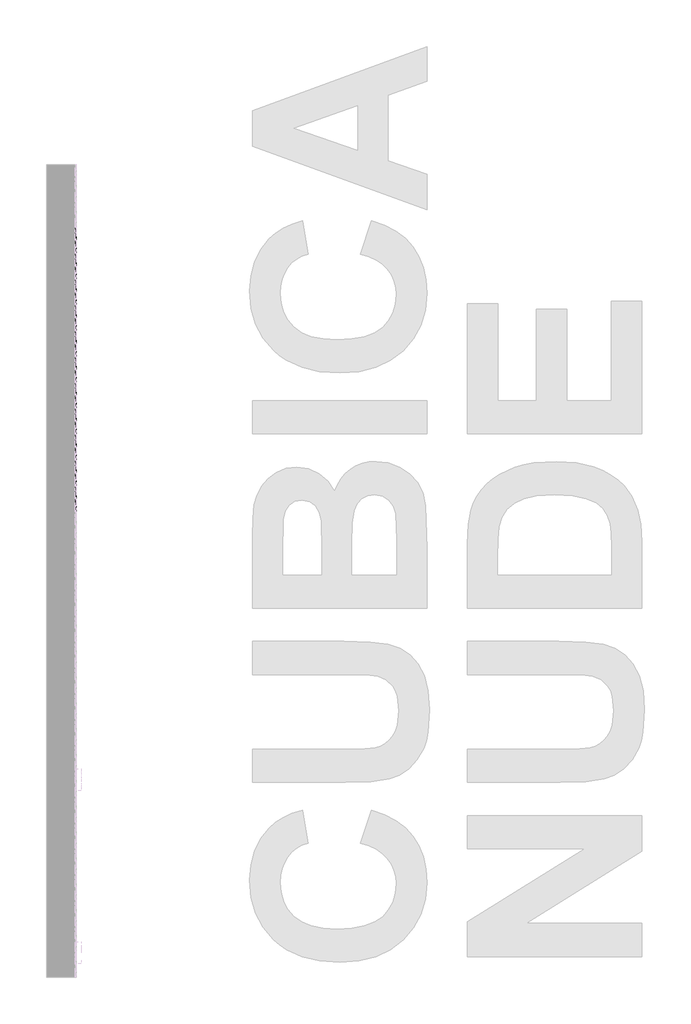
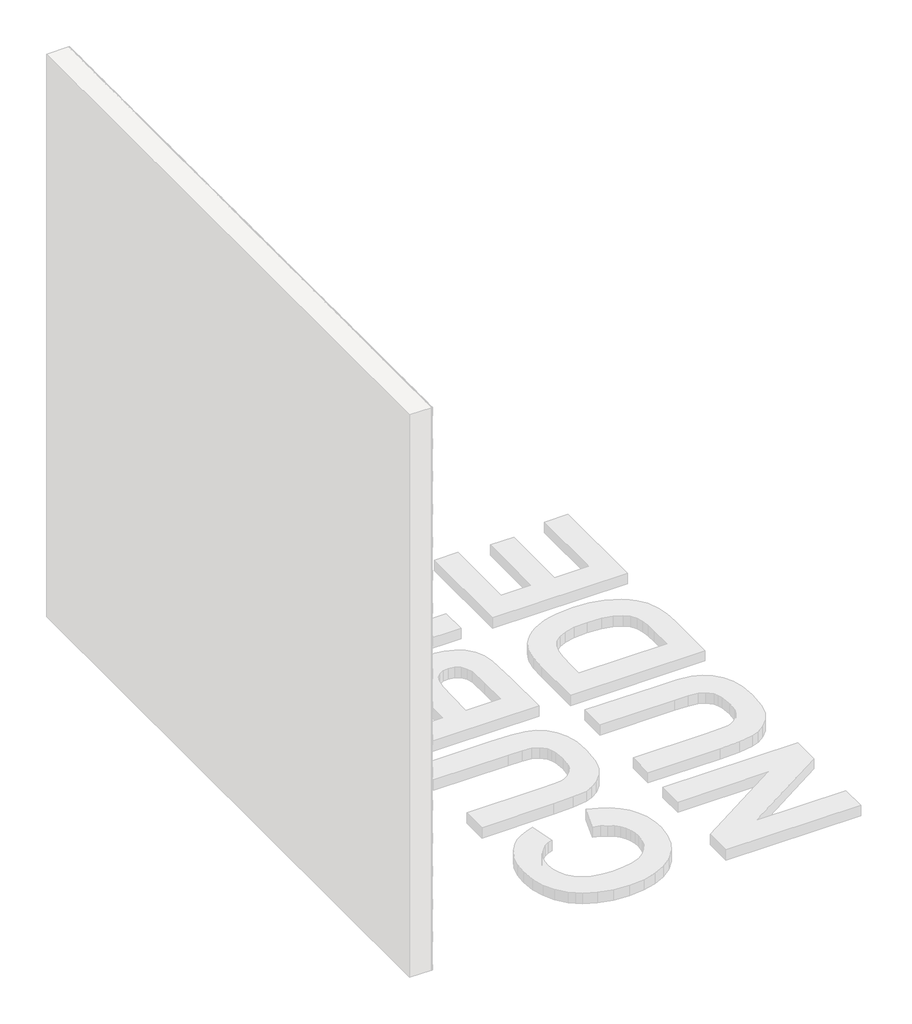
# One storey, part 67 of 121: 145 proxies.
"""IFC4 building model written with IfcOpenShell, lengths in millimetres."""

from ifc_helpers import new_model, si_unit, origin, place, context, project, spatial, transform, mapped, element, save
from components import generic_models_b2b2c5c1, generic_models_9bf73f6f, generic_models_5d175859

model = new_model("IFC4")

# Units and contexts
model_context = context("Model", 3, world=origin())
ifc_project = project(units=[si_unit("LENGTHUNIT", "METRE", prefix="MILLI")], contexts=[model_context])

# Site, building, storey
site = spatial("IfcSite", under=ifc_project)
building = spatial("IfcBuilding", under=site)
storey = spatial("IfcBuildingStorey", under=building, Name="PORTOBELLO - SHOWROOM", Elevation=0.0)

# Proxies
placement = place(None, origin())
generic_models_shape = generic_models_b2b2c5c1(model_context)
element("IfcBuildingElementProxy", 1, Name="PBSHOP - CUBICA NUDE 4,8X8,3 : CUBICA NUDE - POSIÇÃO 01", ObjectType="PBSHOP - CUBICA NUDE 4,8X8,3 : CUBICA NUDE - POSIÇÃO 01", at=placement, inside=storey, context=model_context, shape_type="MappedRepresentation", body=[
    mapped(generic_models_shape, transform((150369.5341846, 8031.654592, 1144.507104), x_axis=(0.0, 1.0, 0.0), y_axis=(0.0, 0.0, 1.0), z_axis=(1.0, 0.0, 0.0))),
])
element("IfcBuildingElementProxy", 2, Name="PBSHOP - CUBICA NUDE 4,8X8,3 : CUBICA NUDE - POSIÇÃO 01", ObjectType="PBSHOP - CUBICA NUDE 4,8X8,3 : CUBICA NUDE - POSIÇÃO 01", at=placement, inside=storey, context=model_context, shape_type="MappedRepresentation", body=[
    mapped(generic_models_shape, transform((150369.5341846, 8122.4938612, 1144.507104), x_axis=(0.0, 1.0, 0.0), y_axis=(0.0, 0.0, 1.0), z_axis=(1.0, 0.0, 0.0))),
])
element("IfcBuildingElementProxy", 3, Name="PBSHOP - CUBICA NUDE 4,8X8,3 : CUBICA NUDE - POSIÇÃO 01", ObjectType="PBSHOP - CUBICA NUDE 4,8X8,3 : CUBICA NUDE - POSIÇÃO 01", at=placement, inside=storey, context=model_context, shape_type="MappedRepresentation", body=[
    mapped(generic_models_shape, transform((150369.5341846, 8213.3331304, 1144.507104), x_axis=(0.0, 1.0, 0.0), y_axis=(0.0, 0.0, 1.0), z_axis=(1.0, 0.0, 0.0))),
])
element("IfcBuildingElementProxy", 4, Name="PBSHOP - CUBICA NUDE 4,8X8,3 : CUBICA NUDE - POSIÇÃO 01", ObjectType="PBSHOP - CUBICA NUDE 4,8X8,3 : CUBICA NUDE - POSIÇÃO 01", at=placement, inside=storey, context=model_context, shape_type="MappedRepresentation", body=[
    mapped(generic_models_shape, transform((150369.5341846, 8304.1723997, 1144.507104), x_axis=(0.0, 1.0, 0.0), y_axis=(0.0, 0.0, 1.0), z_axis=(1.0, 0.0, 0.0))),
])
element("IfcBuildingElementProxy", 5, Name="PBSHOP - CUBICA NUDE 4,8X8,3 : CUBICA NUDE - POSIÇÃO 01", ObjectType="PBSHOP - CUBICA NUDE 4,8X8,3 : CUBICA NUDE - POSIÇÃO 01", at=placement, inside=storey, context=model_context, shape_type="MappedRepresentation", body=[
    mapped(generic_models_shape, transform((150369.5341846, 8395.0116689, 1144.507104), x_axis=(0.0, 1.0, 0.0), y_axis=(0.0, 0.0, 1.0), z_axis=(1.0, 0.0, 0.0))),
])
element("IfcBuildingElementProxy", 6, Name="PBSHOP - CUBICA NUDE 4,8X8,3 : CUBICA NUDE - POSIÇÃO 01", ObjectType="PBSHOP - CUBICA NUDE 4,8X8,3 : CUBICA NUDE - POSIÇÃO 01", at=placement, inside=storey, context=model_context, shape_type="MappedRepresentation", body=[
    mapped(generic_models_shape, transform((150369.5341846, 8485.8509382, 1144.507104), x_axis=(0.0, 1.0, 0.0), y_axis=(0.0, 0.0, 1.0), z_axis=(1.0, 0.0, 0.0))),
])
element("IfcBuildingElementProxy", 7, Name="PBSHOP - CUBICA NUDE 4,8X8,3 : CUBICA NUDE - POSIÇÃO 01", ObjectType="PBSHOP - CUBICA NUDE 4,8X8,3 : CUBICA NUDE - POSIÇÃO 01", at=placement, inside=storey, context=model_context, shape_type="MappedRepresentation", body=[
    mapped(generic_models_shape, transform((150369.5341846, 8576.6902074, 1144.507104), x_axis=(0.0, 1.0, 0.0), y_axis=(0.0, 0.0, 1.0), z_axis=(1.0, 0.0, 0.0))),
])
element("IfcBuildingElementProxy", 8, Name="PBSHOP - CUBICA NUDE 4,8X8,3 : CUBICA NUDE - POSIÇÃO 01", ObjectType="PBSHOP - CUBICA NUDE 4,8X8,3 : CUBICA NUDE - POSIÇÃO 01", at=placement, inside=storey, context=model_context, shape_type="MappedRepresentation", body=[
    mapped(generic_models_shape, transform((150369.5341846, 8667.5294767, 1144.507104), x_axis=(0.0, 1.0, 0.0), y_axis=(0.0, 0.0, 1.0), z_axis=(1.0, 0.0, 0.0))),
])
element("IfcBuildingElementProxy", 9, Name="PBSHOP - CUBICA NUDE 4,8X8,3 : CUBICA NUDE - POSIÇÃO 01", ObjectType="PBSHOP - CUBICA NUDE 4,8X8,3 : CUBICA NUDE - POSIÇÃO 01", at=placement, inside=storey, context=model_context, shape_type="MappedRepresentation", body=[
    mapped(generic_models_shape, transform((150369.5341846, 8758.3687459, 1144.507104), x_axis=(0.0, 1.0, 0.0), y_axis=(0.0, 0.0, 1.0), z_axis=(1.0, 0.0, 0.0))),
])
element("IfcBuildingElementProxy", 10, Name="PBSHOP - CUBICA NUDE 4,8X8,3 : CUBICA NUDE - POSIÇÃO 01", ObjectType="PBSHOP - CUBICA NUDE 4,8X8,3 : CUBICA NUDE - POSIÇÃO 01", at=placement, inside=storey, context=model_context, shape_type="MappedRepresentation", body=[
    mapped(generic_models_shape, transform((150369.5341846, 8849.2080152, 1144.507104), x_axis=(0.0, 1.0, 0.0), y_axis=(0.0, 0.0, 1.0), z_axis=(1.0, 0.0, 0.0))),
])
element("IfcBuildingElementProxy", 11, Name="PBSHOP - CUBICA NUDE 4,8X8,3 : CUBICA NUDE - POSIÇÃO 01", ObjectType="PBSHOP - CUBICA NUDE 4,8X8,3 : CUBICA NUDE - POSIÇÃO 01", at=placement, inside=storey, context=model_context, shape_type="MappedRepresentation", body=[
    mapped(generic_models_shape, transform((150369.5341846, 8940.0472844, 1144.507104), x_axis=(0.0, 1.0, 0.0), y_axis=(0.0, 0.0, 1.0), z_axis=(1.0, 0.0, 0.0))),
])
element("IfcBuildingElementProxy", 12, Name="PBSHOP - CUBICA NUDE 4,8X8,3 : CUBICA NUDE - POSIÇÃO 01", ObjectType="PBSHOP - CUBICA NUDE 4,8X8,3 : CUBICA NUDE - POSIÇÃO 01", at=placement, inside=storey, context=model_context, shape_type="MappedRepresentation", body=[
    mapped(generic_models_shape, transform((150369.5341846, 8077.0742266, 1223.4417424), x_axis=(0.0, 1.0, 0.0), y_axis=(0.0, 0.0, 1.0), z_axis=(1.0, 0.0, 0.0))),
])
element("IfcBuildingElementProxy", 13, Name="PBSHOP - CUBICA NUDE 4,8X8,3 : CUBICA NUDE - POSIÇÃO 01", ObjectType="PBSHOP - CUBICA NUDE 4,8X8,3 : CUBICA NUDE - POSIÇÃO 01", at=placement, inside=storey, context=model_context, shape_type="MappedRepresentation", body=[
    mapped(generic_models_shape, transform((150369.5341846, 8167.9134958, 1223.4417424), x_axis=(0.0, 1.0, 0.0), y_axis=(0.0, 0.0, 1.0), z_axis=(1.0, 0.0, 0.0))),
])
element("IfcBuildingElementProxy", 14, Name="PBSHOP - CUBICA NUDE 4,8X8,3 : CUBICA NUDE - POSIÇÃO 01", ObjectType="PBSHOP - CUBICA NUDE 4,8X8,3 : CUBICA NUDE - POSIÇÃO 01", at=placement, inside=storey, context=model_context, shape_type="MappedRepresentation", body=[
    mapped(generic_models_shape, transform((150369.5341846, 8258.7527651, 1223.4417424), x_axis=(0.0, 1.0, 0.0), y_axis=(0.0, 0.0, 1.0), z_axis=(1.0, 0.0, 0.0))),
])
element("IfcBuildingElementProxy", 15, Name="PBSHOP - CUBICA NUDE 4,8X8,3 : CUBICA NUDE - POSIÇÃO 01", ObjectType="PBSHOP - CUBICA NUDE 4,8X8,3 : CUBICA NUDE - POSIÇÃO 01", at=placement, inside=storey, context=model_context, shape_type="MappedRepresentation", body=[
    mapped(generic_models_shape, transform((150369.5341846, 8349.5920343, 1223.4417424), x_axis=(0.0, 1.0, 0.0), y_axis=(0.0, 0.0, 1.0), z_axis=(1.0, 0.0, 0.0))),
])
element("IfcBuildingElementProxy", 16, Name="PBSHOP - CUBICA NUDE 4,8X8,3 : CUBICA NUDE - POSIÇÃO 01", ObjectType="PBSHOP - CUBICA NUDE 4,8X8,3 : CUBICA NUDE - POSIÇÃO 01", at=placement, inside=storey, context=model_context, shape_type="MappedRepresentation", body=[
    mapped(generic_models_shape, transform((150369.5341846, 8440.4313036, 1223.4417424), x_axis=(0.0, 1.0, 0.0), y_axis=(0.0, 0.0, 1.0), z_axis=(1.0, 0.0, 0.0))),
])
element("IfcBuildingElementProxy", 17, Name="PBSHOP - CUBICA NUDE 4,8X8,3 : CUBICA NUDE - POSIÇÃO 01", ObjectType="PBSHOP - CUBICA NUDE 4,8X8,3 : CUBICA NUDE - POSIÇÃO 01", at=placement, inside=storey, context=model_context, shape_type="MappedRepresentation", body=[
    mapped(generic_models_shape, transform((150369.5341846, 8531.2705728, 1223.4417424), x_axis=(0.0, 1.0, 0.0), y_axis=(0.0, 0.0, 1.0), z_axis=(1.0, 0.0, 0.0))),
])
element("IfcBuildingElementProxy", 18, Name="PBSHOP - CUBICA NUDE 4,8X8,3 : CUBICA NUDE - POSIÇÃO 01", ObjectType="PBSHOP - CUBICA NUDE 4,8X8,3 : CUBICA NUDE - POSIÇÃO 01", at=placement, inside=storey, context=model_context, shape_type="MappedRepresentation", body=[
    mapped(generic_models_shape, transform((150369.5341846, 8622.109842, 1223.4417424), x_axis=(0.0, 1.0, 0.0), y_axis=(0.0, 0.0, 1.0), z_axis=(1.0, 0.0, 0.0))),
])
element("IfcBuildingElementProxy", 19, Name="PBSHOP - CUBICA NUDE 4,8X8,3 : CUBICA NUDE - POSIÇÃO 01", ObjectType="PBSHOP - CUBICA NUDE 4,8X8,3 : CUBICA NUDE - POSIÇÃO 01", at=placement, inside=storey, context=model_context, shape_type="MappedRepresentation", body=[
    mapped(generic_models_shape, transform((150369.5341846, 8712.9491113, 1223.4417424), x_axis=(0.0, 1.0, 0.0), y_axis=(0.0, 0.0, 1.0), z_axis=(1.0, 0.0, 0.0))),
])
element("IfcBuildingElementProxy", 20, Name="PBSHOP - CUBICA NUDE 4,8X8,3 : CUBICA NUDE - POSIÇÃO 01", ObjectType="PBSHOP - CUBICA NUDE 4,8X8,3 : CUBICA NUDE - POSIÇÃO 01", at=placement, inside=storey, context=model_context, shape_type="MappedRepresentation", body=[
    mapped(generic_models_shape, transform((150369.5341846, 8803.7883805, 1223.4417424), x_axis=(0.0, 1.0, 0.0), y_axis=(0.0, 0.0, 1.0), z_axis=(1.0, 0.0, 0.0))),
])
element("IfcBuildingElementProxy", 21, Name="PBSHOP - CUBICA NUDE 4,8X8,3 : CUBICA NUDE - POSIÇÃO 01", ObjectType="PBSHOP - CUBICA NUDE 4,8X8,3 : CUBICA NUDE - POSIÇÃO 01", at=placement, inside=storey, context=model_context, shape_type="MappedRepresentation", body=[
    mapped(generic_models_shape, transform((150369.5341846, 8894.6276498, 1223.4417424), x_axis=(0.0, 1.0, 0.0), y_axis=(0.0, 0.0, 1.0), z_axis=(1.0, 0.0, 0.0))),
])
element("IfcBuildingElementProxy", 22, Name="PBSHOP - CUBICA NUDE 4,8X8,3 : CUBICA NUDE - POSIÇÃO 01", ObjectType="PBSHOP - CUBICA NUDE 4,8X8,3 : CUBICA NUDE - POSIÇÃO 01", at=placement, inside=storey, context=model_context, shape_type="MappedRepresentation", body=[
    mapped(generic_models_shape, transform((150369.5341846, 8985.466919, 1223.4417424), x_axis=(0.0, 1.0, 0.0), y_axis=(0.0, 0.0, 1.0), z_axis=(1.0, 0.0, 0.0))),
])
element("IfcBuildingElementProxy", 23, Name="PBSHOP - CUBICA NUDE 4,8X8,3 : CUBICA NUDE - POSIÇÃO 01", ObjectType="PBSHOP - CUBICA NUDE 4,8X8,3 : CUBICA NUDE - POSIÇÃO 01", at=placement, inside=storey, context=model_context, shape_type="MappedRepresentation", body=[
    mapped(generic_models_shape, transform((150369.5341846, 8031.654592, 1302.3763808), x_axis=(0.0, 1.0, 0.0), y_axis=(0.0, 0.0, 1.0), z_axis=(1.0, 0.0, 0.0))),
])
element("IfcBuildingElementProxy", 24, Name="PBSHOP - CUBICA NUDE 4,8X8,3 : CUBICA NUDE - POSIÇÃO 01", ObjectType="PBSHOP - CUBICA NUDE 4,8X8,3 : CUBICA NUDE - POSIÇÃO 01", at=placement, inside=storey, context=model_context, shape_type="MappedRepresentation", body=[
    mapped(generic_models_shape, transform((150369.5341846, 8122.4938612, 1302.3763808), x_axis=(0.0, 1.0, 0.0), y_axis=(0.0, 0.0, 1.0), z_axis=(1.0, 0.0, 0.0))),
])
element("IfcBuildingElementProxy", 25, Name="PBSHOP - CUBICA NUDE 4,8X8,3 : CUBICA NUDE - POSIÇÃO 01", ObjectType="PBSHOP - CUBICA NUDE 4,8X8,3 : CUBICA NUDE - POSIÇÃO 01", at=placement, inside=storey, context=model_context, shape_type="MappedRepresentation", body=[
    mapped(generic_models_shape, transform((150369.5341846, 8213.3331304, 1302.3763808), x_axis=(0.0, 1.0, 0.0), y_axis=(0.0, 0.0, 1.0), z_axis=(1.0, 0.0, 0.0))),
])
element("IfcBuildingElementProxy", 26, Name="PBSHOP - CUBICA NUDE 4,8X8,3 : CUBICA NUDE - POSIÇÃO 01", ObjectType="PBSHOP - CUBICA NUDE 4,8X8,3 : CUBICA NUDE - POSIÇÃO 01", at=placement, inside=storey, context=model_context, shape_type="MappedRepresentation", body=[
    mapped(generic_models_shape, transform((150369.5341846, 8304.1723997, 1302.3763808), x_axis=(0.0, 1.0, 0.0), y_axis=(0.0, 0.0, 1.0), z_axis=(1.0, 0.0, 0.0))),
])
element("IfcBuildingElementProxy", 27, Name="PBSHOP - CUBICA NUDE 4,8X8,3 : CUBICA NUDE - POSIÇÃO 01", ObjectType="PBSHOP - CUBICA NUDE 4,8X8,3 : CUBICA NUDE - POSIÇÃO 01", at=placement, inside=storey, context=model_context, shape_type="MappedRepresentation", body=[
    mapped(generic_models_shape, transform((150369.5341846, 8395.0116689, 1302.3763808), x_axis=(0.0, 1.0, 0.0), y_axis=(0.0, 0.0, 1.0), z_axis=(1.0, 0.0, 0.0))),
])
element("IfcBuildingElementProxy", 28, Name="PBSHOP - CUBICA NUDE 4,8X8,3 : CUBICA NUDE - POSIÇÃO 01", ObjectType="PBSHOP - CUBICA NUDE 4,8X8,3 : CUBICA NUDE - POSIÇÃO 01", at=placement, inside=storey, context=model_context, shape_type="MappedRepresentation", body=[
    mapped(generic_models_shape, transform((150369.5341846, 8485.8509382, 1302.3763808), x_axis=(0.0, 1.0, 0.0), y_axis=(0.0, 0.0, 1.0), z_axis=(1.0, 0.0, 0.0))),
])
element("IfcBuildingElementProxy", 29, Name="PBSHOP - CUBICA NUDE 4,8X8,3 : CUBICA NUDE - POSIÇÃO 01", ObjectType="PBSHOP - CUBICA NUDE 4,8X8,3 : CUBICA NUDE - POSIÇÃO 01", at=placement, inside=storey, context=model_context, shape_type="MappedRepresentation", body=[
    mapped(generic_models_shape, transform((150369.5341846, 8576.6902074, 1302.3763808), x_axis=(0.0, 1.0, 0.0), y_axis=(0.0, 0.0, 1.0), z_axis=(1.0, 0.0, 0.0))),
])
element("IfcBuildingElementProxy", 30, Name="PBSHOP - CUBICA NUDE 4,8X8,3 : CUBICA NUDE - POSIÇÃO 01", ObjectType="PBSHOP - CUBICA NUDE 4,8X8,3 : CUBICA NUDE - POSIÇÃO 01", at=placement, inside=storey, context=model_context, shape_type="MappedRepresentation", body=[
    mapped(generic_models_shape, transform((150369.5341846, 8667.5294767, 1302.3763808), x_axis=(0.0, 1.0, 0.0), y_axis=(0.0, 0.0, 1.0), z_axis=(1.0, 0.0, 0.0))),
])
element("IfcBuildingElementProxy", 31, Name="PBSHOP - CUBICA NUDE 4,8X8,3 : CUBICA NUDE - POSIÇÃO 01", ObjectType="PBSHOP - CUBICA NUDE 4,8X8,3 : CUBICA NUDE - POSIÇÃO 01", at=placement, inside=storey, context=model_context, shape_type="MappedRepresentation", body=[
    mapped(generic_models_shape, transform((150369.5341846, 8758.3687459, 1302.3763808), x_axis=(0.0, 1.0, 0.0), y_axis=(0.0, 0.0, 1.0), z_axis=(1.0, 0.0, 0.0))),
])
element("IfcBuildingElementProxy", 32, Name="PBSHOP - CUBICA NUDE 4,8X8,3 : CUBICA NUDE - POSIÇÃO 01", ObjectType="PBSHOP - CUBICA NUDE 4,8X8,3 : CUBICA NUDE - POSIÇÃO 01", at=placement, inside=storey, context=model_context, shape_type="MappedRepresentation", body=[
    mapped(generic_models_shape, transform((150369.5341846, 8849.2080152, 1302.3763808), x_axis=(0.0, 1.0, 0.0), y_axis=(0.0, 0.0, 1.0), z_axis=(1.0, 0.0, 0.0))),
])
element("IfcBuildingElementProxy", 33, Name="PBSHOP - CUBICA NUDE 4,8X8,3 : CUBICA NUDE - POSIÇÃO 01", ObjectType="PBSHOP - CUBICA NUDE 4,8X8,3 : CUBICA NUDE - POSIÇÃO 01", at=placement, inside=storey, context=model_context, shape_type="MappedRepresentation", body=[
    mapped(generic_models_shape, transform((150369.5341846, 8940.0472844, 1302.3763808), x_axis=(0.0, 1.0, 0.0), y_axis=(0.0, 0.0, 1.0), z_axis=(1.0, 0.0, 0.0))),
])
element("IfcBuildingElementProxy", 34, Name="PBSHOP - CUBICA NUDE 4,8X8,3 : CUBICA NUDE - POSIÇÃO 01", ObjectType="PBSHOP - CUBICA NUDE 4,8X8,3 : CUBICA NUDE - POSIÇÃO 01", at=placement, inside=storey, context=model_context, shape_type="MappedRepresentation", body=[
    mapped(generic_models_shape, transform((150369.5341846, 8077.0742266, 1381.3110192), x_axis=(0.0, 1.0, 0.0), y_axis=(0.0, 0.0, 1.0), z_axis=(1.0, 0.0, 0.0))),
])
element("IfcBuildingElementProxy", 35, Name="PBSHOP - CUBICA NUDE 4,8X8,3 : CUBICA NUDE - POSIÇÃO 01", ObjectType="PBSHOP - CUBICA NUDE 4,8X8,3 : CUBICA NUDE - POSIÇÃO 01", at=placement, inside=storey, context=model_context, shape_type="MappedRepresentation", body=[
    mapped(generic_models_shape, transform((150369.5341846, 8167.9134958, 1381.3110192), x_axis=(0.0, 1.0, 0.0), y_axis=(0.0, 0.0, 1.0), z_axis=(1.0, 0.0, 0.0))),
])
element("IfcBuildingElementProxy", 36, Name="PBSHOP - CUBICA NUDE 4,8X8,3 : CUBICA NUDE - POSIÇÃO 01", ObjectType="PBSHOP - CUBICA NUDE 4,8X8,3 : CUBICA NUDE - POSIÇÃO 01", at=placement, inside=storey, context=model_context, shape_type="MappedRepresentation", body=[
    mapped(generic_models_shape, transform((150369.5341846, 8258.7527651, 1381.3110192), x_axis=(0.0, 1.0, 0.0), y_axis=(0.0, 0.0, 1.0), z_axis=(1.0, 0.0, 0.0))),
])
element("IfcBuildingElementProxy", 37, Name="PBSHOP - CUBICA NUDE 4,8X8,3 : CUBICA NUDE - POSIÇÃO 01", ObjectType="PBSHOP - CUBICA NUDE 4,8X8,3 : CUBICA NUDE - POSIÇÃO 01", at=placement, inside=storey, context=model_context, shape_type="MappedRepresentation", body=[
    mapped(generic_models_shape, transform((150369.5341846, 8349.5920343, 1381.3110192), x_axis=(0.0, 1.0, 0.0), y_axis=(0.0, 0.0, 1.0), z_axis=(1.0, 0.0, 0.0))),
])
element("IfcBuildingElementProxy", 38, Name="PBSHOP - CUBICA NUDE 4,8X8,3 : CUBICA NUDE - POSIÇÃO 01", ObjectType="PBSHOP - CUBICA NUDE 4,8X8,3 : CUBICA NUDE - POSIÇÃO 01", at=placement, inside=storey, context=model_context, shape_type="MappedRepresentation", body=[
    mapped(generic_models_shape, transform((150369.5341846, 8440.4313036, 1381.3110192), x_axis=(0.0, 1.0, 0.0), y_axis=(0.0, 0.0, 1.0), z_axis=(1.0, 0.0, 0.0))),
])
element("IfcBuildingElementProxy", 39, Name="PBSHOP - CUBICA NUDE 4,8X8,3 : CUBICA NUDE - POSIÇÃO 01", ObjectType="PBSHOP - CUBICA NUDE 4,8X8,3 : CUBICA NUDE - POSIÇÃO 01", at=placement, inside=storey, context=model_context, shape_type="MappedRepresentation", body=[
    mapped(generic_models_shape, transform((150369.5341846, 8531.2705728, 1381.3110192), x_axis=(0.0, 1.0, 0.0), y_axis=(0.0, 0.0, 1.0), z_axis=(1.0, 0.0, 0.0))),
])
element("IfcBuildingElementProxy", 40, Name="PBSHOP - CUBICA NUDE 4,8X8,3 : CUBICA NUDE - POSIÇÃO 01", ObjectType="PBSHOP - CUBICA NUDE 4,8X8,3 : CUBICA NUDE - POSIÇÃO 01", at=placement, inside=storey, context=model_context, shape_type="MappedRepresentation", body=[
    mapped(generic_models_shape, transform((150369.5341846, 8622.109842, 1381.3110192), x_axis=(0.0, 1.0, 0.0), y_axis=(0.0, 0.0, 1.0), z_axis=(1.0, 0.0, 0.0))),
])
element("IfcBuildingElementProxy", 41, Name="PBSHOP - CUBICA NUDE 4,8X8,3 : CUBICA NUDE - POSIÇÃO 01", ObjectType="PBSHOP - CUBICA NUDE 4,8X8,3 : CUBICA NUDE - POSIÇÃO 01", at=placement, inside=storey, context=model_context, shape_type="MappedRepresentation", body=[
    mapped(generic_models_shape, transform((150369.5341846, 8712.9491113, 1381.3110192), x_axis=(0.0, 1.0, 0.0), y_axis=(0.0, 0.0, 1.0), z_axis=(1.0, 0.0, 0.0))),
])
element("IfcBuildingElementProxy", 42, Name="PBSHOP - CUBICA NUDE 4,8X8,3 : CUBICA NUDE - POSIÇÃO 01", ObjectType="PBSHOP - CUBICA NUDE 4,8X8,3 : CUBICA NUDE - POSIÇÃO 01", at=placement, inside=storey, context=model_context, shape_type="MappedRepresentation", body=[
    mapped(generic_models_shape, transform((150369.5341846, 8803.7883805, 1381.3110192), x_axis=(0.0, 1.0, 0.0), y_axis=(0.0, 0.0, 1.0), z_axis=(1.0, 0.0, 0.0))),
])
element("IfcBuildingElementProxy", 43, Name="PBSHOP - CUBICA NUDE 4,8X8,3 : CUBICA NUDE - POSIÇÃO 01", ObjectType="PBSHOP - CUBICA NUDE 4,8X8,3 : CUBICA NUDE - POSIÇÃO 01", at=placement, inside=storey, context=model_context, shape_type="MappedRepresentation", body=[
    mapped(generic_models_shape, transform((150369.5341846, 8894.6276498, 1381.3110192), x_axis=(0.0, 1.0, 0.0), y_axis=(0.0, 0.0, 1.0), z_axis=(1.0, 0.0, 0.0))),
])
element("IfcBuildingElementProxy", 44, Name="PBSHOP - CUBICA NUDE 4,8X8,3 : CUBICA NUDE - POSIÇÃO 01", ObjectType="PBSHOP - CUBICA NUDE 4,8X8,3 : CUBICA NUDE - POSIÇÃO 01", at=placement, inside=storey, context=model_context, shape_type="MappedRepresentation", body=[
    mapped(generic_models_shape, transform((150369.5341846, 8985.466919, 1381.3110192), x_axis=(0.0, 1.0, 0.0), y_axis=(0.0, 0.0, 1.0), z_axis=(1.0, 0.0, 0.0))),
])
element("IfcBuildingElementProxy", 45, Name="PBSHOP - CUBICA NUDE 4,8X8,3 : CUBICA NUDE - POSIÇÃO 01", ObjectType="PBSHOP - CUBICA NUDE 4,8X8,3 : CUBICA NUDE - POSIÇÃO 01", at=placement, inside=storey, context=model_context, shape_type="MappedRepresentation", body=[
    mapped(generic_models_shape, transform((150369.5341846, 8031.654592, 1460.2456575), x_axis=(0.0, 1.0, 0.0), y_axis=(0.0, 0.0, 1.0), z_axis=(1.0, 0.0, 0.0))),
])
element("IfcBuildingElementProxy", 46, Name="PBSHOP - CUBICA NUDE 4,8X8,3 : CUBICA NUDE - POSIÇÃO 01", ObjectType="PBSHOP - CUBICA NUDE 4,8X8,3 : CUBICA NUDE - POSIÇÃO 01", at=placement, inside=storey, context=model_context, shape_type="MappedRepresentation", body=[
    mapped(generic_models_shape, transform((150369.5341846, 8122.4938612, 1460.2456575), x_axis=(0.0, 1.0, 0.0), y_axis=(0.0, 0.0, 1.0), z_axis=(1.0, 0.0, 0.0))),
])
element("IfcBuildingElementProxy", 47, Name="PBSHOP - CUBICA NUDE 4,8X8,3 : CUBICA NUDE - POSIÇÃO 01", ObjectType="PBSHOP - CUBICA NUDE 4,8X8,3 : CUBICA NUDE - POSIÇÃO 01", at=placement, inside=storey, context=model_context, shape_type="MappedRepresentation", body=[
    mapped(generic_models_shape, transform((150369.5341846, 8213.3331304, 1460.2456575), x_axis=(0.0, 1.0, 0.0), y_axis=(0.0, 0.0, 1.0), z_axis=(1.0, 0.0, 0.0))),
])
generic_models_2_shape = generic_models_9bf73f6f(model_context)
element("IfcBuildingElementProxy", 48, Name="PBSHOP - CUBICA NUDE 4,8X8,3 : CUBICA NUDE - POSIÇÃO 03", ObjectType="PBSHOP - CUBICA NUDE 4,8X8,3 : CUBICA NUDE - POSIÇÃO 03", at=placement, inside=storey, context=model_context, shape_type="MappedRepresentation", body=[
    mapped(generic_models_2_shape, transform((150369.5341846, 8417.7236454, 1026.0639361), x_axis=(0.0, 1.0, 0.0), y_axis=(0.0, 0.0, 1.0), z_axis=(1.0, 0.0, 0.0))),
])
element("IfcBuildingElementProxy", 49, Name="PBSHOP - CUBICA NUDE 4,8X8,3 : CUBICA NUDE - POSIÇÃO 03", ObjectType="PBSHOP - CUBICA NUDE 4,8X8,3 : CUBICA NUDE - POSIÇÃO 03", at=placement, inside=storey, context=model_context, shape_type="MappedRepresentation", body=[
    mapped(generic_models_2_shape, transform((150369.5341846, 8508.5629147, 1026.0639361), x_axis=(0.0, 1.0, 0.0), y_axis=(0.0, 0.0, 1.0), z_axis=(1.0, 0.0, 0.0))),
])
element("IfcBuildingElementProxy", 50, Name="PBSHOP - CUBICA NUDE 4,8X8,3 : CUBICA NUDE - POSIÇÃO 03", ObjectType="PBSHOP - CUBICA NUDE 4,8X8,3 : CUBICA NUDE - POSIÇÃO 03", at=placement, inside=storey, context=model_context, shape_type="MappedRepresentation", body=[
    mapped(generic_models_2_shape, transform((150369.5341846, 8599.4021839, 1026.0639361), x_axis=(0.0, 1.0, 0.0), y_axis=(0.0, 0.0, 1.0), z_axis=(1.0, 0.0, 0.0))),
])
element("IfcBuildingElementProxy", 51, Name="PBSHOP - CUBICA NUDE 4,8X8,3 : CUBICA NUDE - POSIÇÃO 03", ObjectType="PBSHOP - CUBICA NUDE 4,8X8,3 : CUBICA NUDE - POSIÇÃO 03", at=placement, inside=storey, context=model_context, shape_type="MappedRepresentation", body=[
    mapped(generic_models_2_shape, transform((150369.5341846, 8690.2414531, 1026.0639361), x_axis=(0.0, 1.0, 0.0), y_axis=(0.0, 0.0, 1.0), z_axis=(1.0, 0.0, 0.0))),
])
element("IfcBuildingElementProxy", 52, Name="PBSHOP - CUBICA NUDE 4,8X8,3 : CUBICA NUDE - POSIÇÃO 03", ObjectType="PBSHOP - CUBICA NUDE 4,8X8,3 : CUBICA NUDE - POSIÇÃO 03", at=placement, inside=storey, context=model_context, shape_type="MappedRepresentation", body=[
    mapped(generic_models_2_shape, transform((150369.5341846, 8781.0807224, 1026.0639361), x_axis=(0.0, 1.0, 0.0), y_axis=(0.0, 0.0, 1.0), z_axis=(1.0, 0.0, 0.0))),
])
element("IfcBuildingElementProxy", 53, Name="PBSHOP - CUBICA NUDE 4,8X8,3 : CUBICA NUDE - POSIÇÃO 03", ObjectType="PBSHOP - CUBICA NUDE 4,8X8,3 : CUBICA NUDE - POSIÇÃO 03", at=placement, inside=storey, context=model_context, shape_type="MappedRepresentation", body=[
    mapped(generic_models_2_shape, transform((150369.5341846, 8871.9199916, 1026.0639361), x_axis=(0.0, 1.0, 0.0), y_axis=(0.0, 0.0, 1.0), z_axis=(1.0, 0.0, 0.0))),
])
element("IfcBuildingElementProxy", 54, Name="PBSHOP - CUBICA NUDE 4,8X8,3 : CUBICA NUDE - POSIÇÃO 03", ObjectType="PBSHOP - CUBICA NUDE 4,8X8,3 : CUBICA NUDE - POSIÇÃO 03", at=placement, inside=storey, context=model_context, shape_type="MappedRepresentation", body=[
    mapped(generic_models_2_shape, transform((150369.5341846, 8962.7592609, 1026.0639361), x_axis=(0.0, 1.0, 0.0), y_axis=(0.0, 0.0, 1.0), z_axis=(1.0, 0.0, 0.0))),
])
element("IfcBuildingElementProxy", 55, Name="PBSHOP - CUBICA NUDE 4,8X8,3 : CUBICA NUDE - POSIÇÃO 03", ObjectType="PBSHOP - CUBICA NUDE 4,8X8,3 : CUBICA NUDE - POSIÇÃO 03", at=placement, inside=storey, context=model_context, shape_type="MappedRepresentation", body=[
    mapped(generic_models_2_shape, transform((150369.5341846, 8008.9469338, 1104.9985744), x_axis=(0.0, 1.0, 0.0), y_axis=(0.0, 0.0, 1.0), z_axis=(1.0, 0.0, 0.0))),
])
element("IfcBuildingElementProxy", 56, Name="PBSHOP - CUBICA NUDE 4,8X8,3 : CUBICA NUDE - POSIÇÃO 03", ObjectType="PBSHOP - CUBICA NUDE 4,8X8,3 : CUBICA NUDE - POSIÇÃO 03", at=placement, inside=storey, context=model_context, shape_type="MappedRepresentation", body=[
    mapped(generic_models_2_shape, transform((150369.5341846, 8099.7862031, 1104.9985744), x_axis=(0.0, 1.0, 0.0), y_axis=(0.0, 0.0, 1.0), z_axis=(1.0, 0.0, 0.0))),
])
element("IfcBuildingElementProxy", 57, Name="PBSHOP - CUBICA NUDE 4,8X8,3 : CUBICA NUDE - POSIÇÃO 03", ObjectType="PBSHOP - CUBICA NUDE 4,8X8,3 : CUBICA NUDE - POSIÇÃO 03", at=placement, inside=storey, context=model_context, shape_type="MappedRepresentation", body=[
    mapped(generic_models_2_shape, transform((150369.5341846, 8190.6254723, 1104.9985744), x_axis=(0.0, 1.0, 0.0), y_axis=(0.0, 0.0, 1.0), z_axis=(1.0, 0.0, 0.0))),
])
element("IfcBuildingElementProxy", 58, Name="PBSHOP - CUBICA NUDE 4,8X8,3 : CUBICA NUDE - POSIÇÃO 03", ObjectType="PBSHOP - CUBICA NUDE 4,8X8,3 : CUBICA NUDE - POSIÇÃO 03", at=placement, inside=storey, context=model_context, shape_type="MappedRepresentation", body=[
    mapped(generic_models_2_shape, transform((150369.5341846, 8281.4647415, 1104.9985744), x_axis=(0.0, 1.0, 0.0), y_axis=(0.0, 0.0, 1.0), z_axis=(1.0, 0.0, 0.0))),
])
element("IfcBuildingElementProxy", 59, Name="PBSHOP - CUBICA NUDE 4,8X8,3 : CUBICA NUDE - POSIÇÃO 03", ObjectType="PBSHOP - CUBICA NUDE 4,8X8,3 : CUBICA NUDE - POSIÇÃO 03", at=placement, inside=storey, context=model_context, shape_type="MappedRepresentation", body=[
    mapped(generic_models_2_shape, transform((150369.5341846, 8372.3040108, 1104.9985744), x_axis=(0.0, 1.0, 0.0), y_axis=(0.0, 0.0, 1.0), z_axis=(1.0, 0.0, 0.0))),
])
element("IfcBuildingElementProxy", 60, Name="PBSHOP - CUBICA NUDE 4,8X8,3 : CUBICA NUDE - POSIÇÃO 03", ObjectType="PBSHOP - CUBICA NUDE 4,8X8,3 : CUBICA NUDE - POSIÇÃO 03", at=placement, inside=storey, context=model_context, shape_type="MappedRepresentation", body=[
    mapped(generic_models_2_shape, transform((150369.5341846, 8463.14328, 1104.9985744), x_axis=(0.0, 1.0, 0.0), y_axis=(0.0, 0.0, 1.0), z_axis=(1.0, 0.0, 0.0))),
])
element("IfcBuildingElementProxy", 61, Name="PBSHOP - CUBICA NUDE 4,8X8,3 : CUBICA NUDE - POSIÇÃO 03", ObjectType="PBSHOP - CUBICA NUDE 4,8X8,3 : CUBICA NUDE - POSIÇÃO 03", at=placement, inside=storey, context=model_context, shape_type="MappedRepresentation", body=[
    mapped(generic_models_2_shape, transform((150369.5341846, 8553.9825493, 1104.9985744), x_axis=(0.0, 1.0, 0.0), y_axis=(0.0, 0.0, 1.0), z_axis=(1.0, 0.0, 0.0))),
])
element("IfcBuildingElementProxy", 62, Name="PBSHOP - CUBICA NUDE 4,8X8,3 : CUBICA NUDE - POSIÇÃO 03", ObjectType="PBSHOP - CUBICA NUDE 4,8X8,3 : CUBICA NUDE - POSIÇÃO 03", at=placement, inside=storey, context=model_context, shape_type="MappedRepresentation", body=[
    mapped(generic_models_2_shape, transform((150369.5341846, 8644.8218185, 1104.9985744), x_axis=(0.0, 1.0, 0.0), y_axis=(0.0, 0.0, 1.0), z_axis=(1.0, 0.0, 0.0))),
])
element("IfcBuildingElementProxy", 63, Name="PBSHOP - CUBICA NUDE 4,8X8,3 : CUBICA NUDE - POSIÇÃO 03", ObjectType="PBSHOP - CUBICA NUDE 4,8X8,3 : CUBICA NUDE - POSIÇÃO 03", at=placement, inside=storey, context=model_context, shape_type="MappedRepresentation", body=[
    mapped(generic_models_2_shape, transform((150369.5341846, 8735.6610878, 1104.9985744), x_axis=(0.0, 1.0, 0.0), y_axis=(0.0, 0.0, 1.0), z_axis=(1.0, 0.0, 0.0))),
])
element("IfcBuildingElementProxy", 64, Name="PBSHOP - CUBICA NUDE 4,8X8,3 : CUBICA NUDE - POSIÇÃO 03", ObjectType="PBSHOP - CUBICA NUDE 4,8X8,3 : CUBICA NUDE - POSIÇÃO 03", at=placement, inside=storey, context=model_context, shape_type="MappedRepresentation", body=[
    mapped(generic_models_2_shape, transform((150369.5341846, 8826.500357, 1104.9985744), x_axis=(0.0, 1.0, 0.0), y_axis=(0.0, 0.0, 1.0), z_axis=(1.0, 0.0, 0.0))),
])
element("IfcBuildingElementProxy", 65, Name="PBSHOP - CUBICA NUDE 4,8X8,3 : CUBICA NUDE - POSIÇÃO 03", ObjectType="PBSHOP - CUBICA NUDE 4,8X8,3 : CUBICA NUDE - POSIÇÃO 03", at=placement, inside=storey, context=model_context, shape_type="MappedRepresentation", body=[
    mapped(generic_models_2_shape, transform((150369.5341846, 8917.3396263, 1104.9985744), x_axis=(0.0, 1.0, 0.0), y_axis=(0.0, 0.0, 1.0), z_axis=(1.0, 0.0, 0.0))),
])
element("IfcBuildingElementProxy", 66, Name="PBSHOP - CUBICA NUDE 4,8X8,3 : CUBICA NUDE - POSIÇÃO 03", ObjectType="PBSHOP - CUBICA NUDE 4,8X8,3 : CUBICA NUDE - POSIÇÃO 03", at=placement, inside=storey, context=model_context, shape_type="MappedRepresentation", body=[
    mapped(generic_models_2_shape, transform((150369.5341846, 8054.3665684, 1183.9332128), x_axis=(0.0, 1.0, 0.0), y_axis=(0.0, 0.0, 1.0), z_axis=(1.0, 0.0, 0.0))),
])
element("IfcBuildingElementProxy", 67, Name="PBSHOP - CUBICA NUDE 4,8X8,3 : CUBICA NUDE - POSIÇÃO 03", ObjectType="PBSHOP - CUBICA NUDE 4,8X8,3 : CUBICA NUDE - POSIÇÃO 03", at=placement, inside=storey, context=model_context, shape_type="MappedRepresentation", body=[
    mapped(generic_models_2_shape, transform((150369.5341846, 8145.2058377, 1183.9332128), x_axis=(0.0, 1.0, 0.0), y_axis=(0.0, 0.0, 1.0), z_axis=(1.0, 0.0, 0.0))),
])
element("IfcBuildingElementProxy", 68, Name="PBSHOP - CUBICA NUDE 4,8X8,3 : CUBICA NUDE - POSIÇÃO 03", ObjectType="PBSHOP - CUBICA NUDE 4,8X8,3 : CUBICA NUDE - POSIÇÃO 03", at=placement, inside=storey, context=model_context, shape_type="MappedRepresentation", body=[
    mapped(generic_models_2_shape, transform((150369.5341846, 8236.0451069, 1183.9332128), x_axis=(0.0, 1.0, 0.0), y_axis=(0.0, 0.0, 1.0), z_axis=(1.0, 0.0, 0.0))),
])
element("IfcBuildingElementProxy", 69, Name="PBSHOP - CUBICA NUDE 4,8X8,3 : CUBICA NUDE - POSIÇÃO 03", ObjectType="PBSHOP - CUBICA NUDE 4,8X8,3 : CUBICA NUDE - POSIÇÃO 03", at=placement, inside=storey, context=model_context, shape_type="MappedRepresentation", body=[
    mapped(generic_models_2_shape, transform((150369.5341846, 8326.8843762, 1183.9332128), x_axis=(0.0, 1.0, 0.0), y_axis=(0.0, 0.0, 1.0), z_axis=(1.0, 0.0, 0.0))),
])
element("IfcBuildingElementProxy", 70, Name="PBSHOP - CUBICA NUDE 4,8X8,3 : CUBICA NUDE - POSIÇÃO 03", ObjectType="PBSHOP - CUBICA NUDE 4,8X8,3 : CUBICA NUDE - POSIÇÃO 03", at=placement, inside=storey, context=model_context, shape_type="MappedRepresentation", body=[
    mapped(generic_models_2_shape, transform((150369.5341846, 8417.7236454, 1183.9332128), x_axis=(0.0, 1.0, 0.0), y_axis=(0.0, 0.0, 1.0), z_axis=(1.0, 0.0, 0.0))),
])
element("IfcBuildingElementProxy", 71, Name="PBSHOP - CUBICA NUDE 4,8X8,3 : CUBICA NUDE - POSIÇÃO 03", ObjectType="PBSHOP - CUBICA NUDE 4,8X8,3 : CUBICA NUDE - POSIÇÃO 03", at=placement, inside=storey, context=model_context, shape_type="MappedRepresentation", body=[
    mapped(generic_models_2_shape, transform((150369.5341846, 8508.5629147, 1183.9332128), x_axis=(0.0, 1.0, 0.0), y_axis=(0.0, 0.0, 1.0), z_axis=(1.0, 0.0, 0.0))),
])
element("IfcBuildingElementProxy", 72, Name="PBSHOP - CUBICA NUDE 4,8X8,3 : CUBICA NUDE - POSIÇÃO 03", ObjectType="PBSHOP - CUBICA NUDE 4,8X8,3 : CUBICA NUDE - POSIÇÃO 03", at=placement, inside=storey, context=model_context, shape_type="MappedRepresentation", body=[
    mapped(generic_models_2_shape, transform((150369.5341846, 8599.4021839, 1183.9332128), x_axis=(0.0, 1.0, 0.0), y_axis=(0.0, 0.0, 1.0), z_axis=(1.0, 0.0, 0.0))),
])
element("IfcBuildingElementProxy", 73, Name="PBSHOP - CUBICA NUDE 4,8X8,3 : CUBICA NUDE - POSIÇÃO 03", ObjectType="PBSHOP - CUBICA NUDE 4,8X8,3 : CUBICA NUDE - POSIÇÃO 03", at=placement, inside=storey, context=model_context, shape_type="MappedRepresentation", body=[
    mapped(generic_models_2_shape, transform((150369.5341846, 8690.2414531, 1183.9332128), x_axis=(0.0, 1.0, 0.0), y_axis=(0.0, 0.0, 1.0), z_axis=(1.0, 0.0, 0.0))),
])
element("IfcBuildingElementProxy", 74, Name="PBSHOP - CUBICA NUDE 4,8X8,3 : CUBICA NUDE - POSIÇÃO 03", ObjectType="PBSHOP - CUBICA NUDE 4,8X8,3 : CUBICA NUDE - POSIÇÃO 03", at=placement, inside=storey, context=model_context, shape_type="MappedRepresentation", body=[
    mapped(generic_models_2_shape, transform((150369.5341846, 8781.0807224, 1183.9332128), x_axis=(0.0, 1.0, 0.0), y_axis=(0.0, 0.0, 1.0), z_axis=(1.0, 0.0, 0.0))),
])
element("IfcBuildingElementProxy", 75, Name="PBSHOP - CUBICA NUDE 4,8X8,3 : CUBICA NUDE - POSIÇÃO 03", ObjectType="PBSHOP - CUBICA NUDE 4,8X8,3 : CUBICA NUDE - POSIÇÃO 03", at=placement, inside=storey, context=model_context, shape_type="MappedRepresentation", body=[
    mapped(generic_models_2_shape, transform((150369.5341846, 8871.9199916, 1183.9332128), x_axis=(0.0, 1.0, 0.0), y_axis=(0.0, 0.0, 1.0), z_axis=(1.0, 0.0, 0.0))),
])
element("IfcBuildingElementProxy", 76, Name="PBSHOP - CUBICA NUDE 4,8X8,3 : CUBICA NUDE - POSIÇÃO 03", ObjectType="PBSHOP - CUBICA NUDE 4,8X8,3 : CUBICA NUDE - POSIÇÃO 03", at=placement, inside=storey, context=model_context, shape_type="MappedRepresentation", body=[
    mapped(generic_models_2_shape, transform((150369.5341846, 8962.7592609, 1183.9332128), x_axis=(0.0, 1.0, 0.0), y_axis=(0.0, 0.0, 1.0), z_axis=(1.0, 0.0, 0.0))),
])
element("IfcBuildingElementProxy", 77, Name="PBSHOP - CUBICA NUDE 4,8X8,3 : CUBICA NUDE - POSIÇÃO 03", ObjectType="PBSHOP - CUBICA NUDE 4,8X8,3 : CUBICA NUDE - POSIÇÃO 03", at=placement, inside=storey, context=model_context, shape_type="MappedRepresentation", body=[
    mapped(generic_models_2_shape, transform((150369.5341846, 8008.9469338, 1262.8678512), x_axis=(0.0, 1.0, 0.0), y_axis=(0.0, 0.0, 1.0), z_axis=(1.0, 0.0, 0.0))),
])
element("IfcBuildingElementProxy", 78, Name="PBSHOP - CUBICA NUDE 4,8X8,3 : CUBICA NUDE - POSIÇÃO 03", ObjectType="PBSHOP - CUBICA NUDE 4,8X8,3 : CUBICA NUDE - POSIÇÃO 03", at=placement, inside=storey, context=model_context, shape_type="MappedRepresentation", body=[
    mapped(generic_models_2_shape, transform((150369.5341846, 8099.7862031, 1262.8678512), x_axis=(0.0, 1.0, 0.0), y_axis=(0.0, 0.0, 1.0), z_axis=(1.0, 0.0, 0.0))),
])
element("IfcBuildingElementProxy", 79, Name="PBSHOP - CUBICA NUDE 4,8X8,3 : CUBICA NUDE - POSIÇÃO 03", ObjectType="PBSHOP - CUBICA NUDE 4,8X8,3 : CUBICA NUDE - POSIÇÃO 03", at=placement, inside=storey, context=model_context, shape_type="MappedRepresentation", body=[
    mapped(generic_models_2_shape, transform((150369.5341846, 8190.6254723, 1262.8678512), x_axis=(0.0, 1.0, 0.0), y_axis=(0.0, 0.0, 1.0), z_axis=(1.0, 0.0, 0.0))),
])
element("IfcBuildingElementProxy", 80, Name="PBSHOP - CUBICA NUDE 4,8X8,3 : CUBICA NUDE - POSIÇÃO 03", ObjectType="PBSHOP - CUBICA NUDE 4,8X8,3 : CUBICA NUDE - POSIÇÃO 03", at=placement, inside=storey, context=model_context, shape_type="MappedRepresentation", body=[
    mapped(generic_models_2_shape, transform((150369.5341846, 8281.4647415, 1262.8678512), x_axis=(0.0, 1.0, 0.0), y_axis=(0.0, 0.0, 1.0), z_axis=(1.0, 0.0, 0.0))),
])
element("IfcBuildingElementProxy", 81, Name="PBSHOP - CUBICA NUDE 4,8X8,3 : CUBICA NUDE - POSIÇÃO 03", ObjectType="PBSHOP - CUBICA NUDE 4,8X8,3 : CUBICA NUDE - POSIÇÃO 03", at=placement, inside=storey, context=model_context, shape_type="MappedRepresentation", body=[
    mapped(generic_models_2_shape, transform((150369.5341846, 8372.3040108, 1262.8678512), x_axis=(0.0, 1.0, 0.0), y_axis=(0.0, 0.0, 1.0), z_axis=(1.0, 0.0, 0.0))),
])
element("IfcBuildingElementProxy", 82, Name="PBSHOP - CUBICA NUDE 4,8X8,3 : CUBICA NUDE - POSIÇÃO 03", ObjectType="PBSHOP - CUBICA NUDE 4,8X8,3 : CUBICA NUDE - POSIÇÃO 03", at=placement, inside=storey, context=model_context, shape_type="MappedRepresentation", body=[
    mapped(generic_models_2_shape, transform((150369.5341846, 8463.14328, 1262.8678512), x_axis=(0.0, 1.0, 0.0), y_axis=(0.0, 0.0, 1.0), z_axis=(1.0, 0.0, 0.0))),
])
element("IfcBuildingElementProxy", 83, Name="PBSHOP - CUBICA NUDE 4,8X8,3 : CUBICA NUDE - POSIÇÃO 03", ObjectType="PBSHOP - CUBICA NUDE 4,8X8,3 : CUBICA NUDE - POSIÇÃO 03", at=placement, inside=storey, context=model_context, shape_type="MappedRepresentation", body=[
    mapped(generic_models_2_shape, transform((150369.5341846, 8553.9825493, 1262.8678512), x_axis=(0.0, 1.0, 0.0), y_axis=(0.0, 0.0, 1.0), z_axis=(1.0, 0.0, 0.0))),
])
element("IfcBuildingElementProxy", 84, Name="PBSHOP - CUBICA NUDE 4,8X8,3 : CUBICA NUDE - POSIÇÃO 03", ObjectType="PBSHOP - CUBICA NUDE 4,8X8,3 : CUBICA NUDE - POSIÇÃO 03", at=placement, inside=storey, context=model_context, shape_type="MappedRepresentation", body=[
    mapped(generic_models_2_shape, transform((150369.5341846, 8644.8218185, 1262.8678512), x_axis=(0.0, 1.0, 0.0), y_axis=(0.0, 0.0, 1.0), z_axis=(1.0, 0.0, 0.0))),
])
element("IfcBuildingElementProxy", 85, Name="PBSHOP - CUBICA NUDE 4,8X8,3 : CUBICA NUDE - POSIÇÃO 03", ObjectType="PBSHOP - CUBICA NUDE 4,8X8,3 : CUBICA NUDE - POSIÇÃO 03", at=placement, inside=storey, context=model_context, shape_type="MappedRepresentation", body=[
    mapped(generic_models_2_shape, transform((150369.5341846, 8735.6610878, 1262.8678512), x_axis=(0.0, 1.0, 0.0), y_axis=(0.0, 0.0, 1.0), z_axis=(1.0, 0.0, 0.0))),
])
element("IfcBuildingElementProxy", 86, Name="PBSHOP - CUBICA NUDE 4,8X8,3 : CUBICA NUDE - POSIÇÃO 03", ObjectType="PBSHOP - CUBICA NUDE 4,8X8,3 : CUBICA NUDE - POSIÇÃO 03", at=placement, inside=storey, context=model_context, shape_type="MappedRepresentation", body=[
    mapped(generic_models_2_shape, transform((150369.5341846, 8826.500357, 1262.8678512), x_axis=(0.0, 1.0, 0.0), y_axis=(0.0, 0.0, 1.0), z_axis=(1.0, 0.0, 0.0))),
])
element("IfcBuildingElementProxy", 87, Name="PBSHOP - CUBICA NUDE 4,8X8,3 : CUBICA NUDE - POSIÇÃO 03", ObjectType="PBSHOP - CUBICA NUDE 4,8X8,3 : CUBICA NUDE - POSIÇÃO 03", at=placement, inside=storey, context=model_context, shape_type="MappedRepresentation", body=[
    mapped(generic_models_2_shape, transform((150369.5341846, 8917.3396263, 1262.8678512), x_axis=(0.0, 1.0, 0.0), y_axis=(0.0, 0.0, 1.0), z_axis=(1.0, 0.0, 0.0))),
])
element("IfcBuildingElementProxy", 88, Name="PBSHOP - CUBICA NUDE 4,8X8,3 : CUBICA NUDE - POSIÇÃO 03", ObjectType="PBSHOP - CUBICA NUDE 4,8X8,3 : CUBICA NUDE - POSIÇÃO 03", at=placement, inside=storey, context=model_context, shape_type="MappedRepresentation", body=[
    mapped(generic_models_2_shape, transform((150369.5341846, 8054.3665684, 1341.8024896), x_axis=(0.0, 1.0, 0.0), y_axis=(0.0, 0.0, 1.0), z_axis=(1.0, 0.0, 0.0))),
])
element("IfcBuildingElementProxy", 89, Name="PBSHOP - CUBICA NUDE 4,8X8,3 : CUBICA NUDE - POSIÇÃO 03", ObjectType="PBSHOP - CUBICA NUDE 4,8X8,3 : CUBICA NUDE - POSIÇÃO 03", at=placement, inside=storey, context=model_context, shape_type="MappedRepresentation", body=[
    mapped(generic_models_2_shape, transform((150369.5341846, 8145.2058377, 1341.8024896), x_axis=(0.0, 1.0, 0.0), y_axis=(0.0, 0.0, 1.0), z_axis=(1.0, 0.0, 0.0))),
])
element("IfcBuildingElementProxy", 90, Name="PBSHOP - CUBICA NUDE 4,8X8,3 : CUBICA NUDE - POSIÇÃO 03", ObjectType="PBSHOP - CUBICA NUDE 4,8X8,3 : CUBICA NUDE - POSIÇÃO 03", at=placement, inside=storey, context=model_context, shape_type="MappedRepresentation", body=[
    mapped(generic_models_2_shape, transform((150369.5341846, 8236.0451069, 1341.8024896), x_axis=(0.0, 1.0, 0.0), y_axis=(0.0, 0.0, 1.0), z_axis=(1.0, 0.0, 0.0))),
])
element("IfcBuildingElementProxy", 91, Name="PBSHOP - CUBICA NUDE 4,8X8,3 : CUBICA NUDE - POSIÇÃO 03", ObjectType="PBSHOP - CUBICA NUDE 4,8X8,3 : CUBICA NUDE - POSIÇÃO 03", at=placement, inside=storey, context=model_context, shape_type="MappedRepresentation", body=[
    mapped(generic_models_2_shape, transform((150369.5341846, 8326.8843762, 1341.8024896), x_axis=(0.0, 1.0, 0.0), y_axis=(0.0, 0.0, 1.0), z_axis=(1.0, 0.0, 0.0))),
])
element("IfcBuildingElementProxy", 92, Name="PBSHOP - CUBICA NUDE 4,8X8,3 : CUBICA NUDE - POSIÇÃO 03", ObjectType="PBSHOP - CUBICA NUDE 4,8X8,3 : CUBICA NUDE - POSIÇÃO 03", at=placement, inside=storey, context=model_context, shape_type="MappedRepresentation", body=[
    mapped(generic_models_2_shape, transform((150369.5341846, 8417.7236454, 1341.8024896), x_axis=(0.0, 1.0, 0.0), y_axis=(0.0, 0.0, 1.0), z_axis=(1.0, 0.0, 0.0))),
])
element("IfcBuildingElementProxy", 93, Name="PBSHOP - CUBICA NUDE 4,8X8,3 : CUBICA NUDE - POSIÇÃO 03", ObjectType="PBSHOP - CUBICA NUDE 4,8X8,3 : CUBICA NUDE - POSIÇÃO 03", at=placement, inside=storey, context=model_context, shape_type="MappedRepresentation", body=[
    mapped(generic_models_2_shape, transform((150369.5341846, 8508.5629147, 1341.8024896), x_axis=(0.0, 1.0, 0.0), y_axis=(0.0, 0.0, 1.0), z_axis=(1.0, 0.0, 0.0))),
])
element("IfcBuildingElementProxy", 94, Name="PBSHOP - CUBICA NUDE 4,8X8,3 : CUBICA NUDE - POSIÇÃO 03", ObjectType="PBSHOP - CUBICA NUDE 4,8X8,3 : CUBICA NUDE - POSIÇÃO 03", at=placement, inside=storey, context=model_context, shape_type="MappedRepresentation", body=[
    mapped(generic_models_2_shape, transform((150369.5341846, 8599.4021839, 1341.8024896), x_axis=(0.0, 1.0, 0.0), y_axis=(0.0, 0.0, 1.0), z_axis=(1.0, 0.0, 0.0))),
])
element("IfcBuildingElementProxy", 95, Name="PBSHOP - CUBICA NUDE 4,8X8,3 : CUBICA NUDE - POSIÇÃO 03", ObjectType="PBSHOP - CUBICA NUDE 4,8X8,3 : CUBICA NUDE - POSIÇÃO 03", at=placement, inside=storey, context=model_context, shape_type="MappedRepresentation", body=[
    mapped(generic_models_2_shape, transform((150369.5341846, 8690.2414531, 1341.8024896), x_axis=(0.0, 1.0, 0.0), y_axis=(0.0, 0.0, 1.0), z_axis=(1.0, 0.0, 0.0))),
])
element("IfcBuildingElementProxy", 96, Name="PBSHOP - CUBICA NUDE 4,8X8,3 : CUBICA NUDE - POSIÇÃO 03", ObjectType="PBSHOP - CUBICA NUDE 4,8X8,3 : CUBICA NUDE - POSIÇÃO 03", at=placement, inside=storey, context=model_context, shape_type="MappedRepresentation", body=[
    mapped(generic_models_2_shape, transform((150369.5341846, 8781.0807224, 1341.8024896), x_axis=(0.0, 1.0, 0.0), y_axis=(0.0, 0.0, 1.0), z_axis=(1.0, 0.0, 0.0))),
])
element("IfcBuildingElementProxy", 97, Name="PBSHOP - CUBICA NUDE 4,8X8,3 : CUBICA NUDE - POSIÇÃO 03", ObjectType="PBSHOP - CUBICA NUDE 4,8X8,3 : CUBICA NUDE - POSIÇÃO 03", at=placement, inside=storey, context=model_context, shape_type="MappedRepresentation", body=[
    mapped(generic_models_2_shape, transform((150369.5341846, 8871.9199916, 1341.8024896), x_axis=(0.0, 1.0, 0.0), y_axis=(0.0, 0.0, 1.0), z_axis=(1.0, 0.0, 0.0))),
])
element("IfcBuildingElementProxy", 98, Name="PBSHOP - CUBICA NUDE 4,8X8,3 : CUBICA NUDE - POSIÇÃO 03", ObjectType="PBSHOP - CUBICA NUDE 4,8X8,3 : CUBICA NUDE - POSIÇÃO 03", at=placement, inside=storey, context=model_context, shape_type="MappedRepresentation", body=[
    mapped(generic_models_2_shape, transform((150369.5341846, 8962.7592609, 1341.8024896), x_axis=(0.0, 1.0, 0.0), y_axis=(0.0, 0.0, 1.0), z_axis=(1.0, 0.0, 0.0))),
])
generic_models_3_shape = generic_models_5d175859(model_context)
element("IfcBuildingElementProxy", 99, Name="PBSHOP - CUBICA NUDE 4,8X8,3 : CUBICA NUDE - POSIÇÃO 01", ObjectType="PBSHOP - CUBICA NUDE 4,8X8,3 : CUBICA NUDE - POSIÇÃO 01", at=placement, inside=storey, context=model_context, shape_type="MappedRepresentation", body=[
    mapped(generic_models_3_shape, transform((150369.5341846, 8077.0785449, 1144.507104), x_axis=(0.0, -1.0, 0.0), y_axis=(0.0, 0.0, -1.0), z_axis=(1.0, 0.0, 0.0))),
])
element("IfcBuildingElementProxy", 100, Name="PBSHOP - CUBICA NUDE 4,8X8,3 : CUBICA NUDE - POSIÇÃO 01", ObjectType="PBSHOP - CUBICA NUDE 4,8X8,3 : CUBICA NUDE - POSIÇÃO 01", at=placement, inside=storey, context=model_context, shape_type="MappedRepresentation", body=[
    mapped(generic_models_3_shape, transform((150369.5341846, 8167.9178142, 1144.507104), x_axis=(0.0, -1.0, 0.0), y_axis=(0.0, 0.0, -1.0), z_axis=(1.0, 0.0, 0.0))),
])
element("IfcBuildingElementProxy", 101, Name="PBSHOP - CUBICA NUDE 4,8X8,3 : CUBICA NUDE - POSIÇÃO 01", ObjectType="PBSHOP - CUBICA NUDE 4,8X8,3 : CUBICA NUDE - POSIÇÃO 01", at=placement, inside=storey, context=model_context, shape_type="MappedRepresentation", body=[
    mapped(generic_models_3_shape, transform((150369.5341846, 8258.7570834, 1144.507104), x_axis=(0.0, -1.0, 0.0), y_axis=(0.0, 0.0, -1.0), z_axis=(1.0, 0.0, 0.0))),
])
element("IfcBuildingElementProxy", 102, Name="PBSHOP - CUBICA NUDE 4,8X8,3 : CUBICA NUDE - POSIÇÃO 01", ObjectType="PBSHOP - CUBICA NUDE 4,8X8,3 : CUBICA NUDE - POSIÇÃO 01", at=placement, inside=storey, context=model_context, shape_type="MappedRepresentation", body=[
    mapped(generic_models_3_shape, transform((150369.5341846, 8349.5963526, 1144.507104), x_axis=(0.0, -1.0, 0.0), y_axis=(0.0, 0.0, -1.0), z_axis=(1.0, 0.0, 0.0))),
])
element("IfcBuildingElementProxy", 103, Name="PBSHOP - CUBICA NUDE 4,8X8,3 : CUBICA NUDE - POSIÇÃO 01", ObjectType="PBSHOP - CUBICA NUDE 4,8X8,3 : CUBICA NUDE - POSIÇÃO 01", at=placement, inside=storey, context=model_context, shape_type="MappedRepresentation", body=[
    mapped(generic_models_3_shape, transform((150369.5341846, 8440.4356219, 1144.507104), x_axis=(0.0, -1.0, 0.0), y_axis=(0.0, 0.0, -1.0), z_axis=(1.0, 0.0, 0.0))),
])
element("IfcBuildingElementProxy", 104, Name="PBSHOP - CUBICA NUDE 4,8X8,3 : CUBICA NUDE - POSIÇÃO 01", ObjectType="PBSHOP - CUBICA NUDE 4,8X8,3 : CUBICA NUDE - POSIÇÃO 01", at=placement, inside=storey, context=model_context, shape_type="MappedRepresentation", body=[
    mapped(generic_models_3_shape, transform((150369.5341846, 8531.2748911, 1144.507104), x_axis=(0.0, -1.0, 0.0), y_axis=(0.0, 0.0, -1.0), z_axis=(1.0, 0.0, 0.0))),
])
element("IfcBuildingElementProxy", 105, Name="PBSHOP - CUBICA NUDE 4,8X8,3 : CUBICA NUDE - POSIÇÃO 01", ObjectType="PBSHOP - CUBICA NUDE 4,8X8,3 : CUBICA NUDE - POSIÇÃO 01", at=placement, inside=storey, context=model_context, shape_type="MappedRepresentation", body=[
    mapped(generic_models_3_shape, transform((150369.5341846, 8622.1141604, 1144.507104), x_axis=(0.0, -1.0, 0.0), y_axis=(0.0, 0.0, -1.0), z_axis=(1.0, 0.0, 0.0))),
])
element("IfcBuildingElementProxy", 106, Name="PBSHOP - CUBICA NUDE 4,8X8,3 : CUBICA NUDE - POSIÇÃO 01", ObjectType="PBSHOP - CUBICA NUDE 4,8X8,3 : CUBICA NUDE - POSIÇÃO 01", at=placement, inside=storey, context=model_context, shape_type="MappedRepresentation", body=[
    mapped(generic_models_3_shape, transform((150369.5341846, 8712.9534296, 1144.507104), x_axis=(0.0, -1.0, 0.0), y_axis=(0.0, 0.0, -1.0), z_axis=(1.0, 0.0, 0.0))),
])
element("IfcBuildingElementProxy", 107, Name="PBSHOP - CUBICA NUDE 4,8X8,3 : CUBICA NUDE - POSIÇÃO 01", ObjectType="PBSHOP - CUBICA NUDE 4,8X8,3 : CUBICA NUDE - POSIÇÃO 01", at=placement, inside=storey, context=model_context, shape_type="MappedRepresentation", body=[
    mapped(generic_models_3_shape, transform((150369.5341846, 8803.7926989, 1144.507104), x_axis=(0.0, -1.0, 0.0), y_axis=(0.0, 0.0, -1.0), z_axis=(1.0, 0.0, 0.0))),
])
element("IfcBuildingElementProxy", 108, Name="PBSHOP - CUBICA NUDE 4,8X8,3 : CUBICA NUDE - POSIÇÃO 01", ObjectType="PBSHOP - CUBICA NUDE 4,8X8,3 : CUBICA NUDE - POSIÇÃO 01", at=placement, inside=storey, context=model_context, shape_type="MappedRepresentation", body=[
    mapped(generic_models_3_shape, transform((150369.5341846, 8894.6319681, 1144.507104), x_axis=(0.0, -1.0, 0.0), y_axis=(0.0, 0.0, -1.0), z_axis=(1.0, 0.0, 0.0))),
])
element("IfcBuildingElementProxy", 109, Name="PBSHOP - CUBICA NUDE 4,8X8,3 : CUBICA NUDE - POSIÇÃO 01", ObjectType="PBSHOP - CUBICA NUDE 4,8X8,3 : CUBICA NUDE - POSIÇÃO 01", at=placement, inside=storey, context=model_context, shape_type="MappedRepresentation", body=[
    mapped(generic_models_3_shape, transform((150369.5341846, 8985.4712374, 1144.507104), x_axis=(0.0, -1.0, 0.0), y_axis=(0.0, 0.0, -1.0), z_axis=(1.0, 0.0, 0.0))),
])
element("IfcBuildingElementProxy", 110, Name="PBSHOP - CUBICA NUDE 4,8X8,3 : CUBICA NUDE - POSIÇÃO 01", ObjectType="PBSHOP - CUBICA NUDE 4,8X8,3 : CUBICA NUDE - POSIÇÃO 01", at=placement, inside=storey, context=model_context, shape_type="MappedRepresentation", body=[
    mapped(generic_models_3_shape, transform((150369.5341846, 8031.6589103, 1223.4417424), x_axis=(0.0, -1.0, 0.0), y_axis=(0.0, 0.0, -1.0), z_axis=(1.0, 0.0, 0.0))),
])
element("IfcBuildingElementProxy", 111, Name="PBSHOP - CUBICA NUDE 4,8X8,3 : CUBICA NUDE - POSIÇÃO 01", ObjectType="PBSHOP - CUBICA NUDE 4,8X8,3 : CUBICA NUDE - POSIÇÃO 01", at=placement, inside=storey, context=model_context, shape_type="MappedRepresentation", body=[
    mapped(generic_models_3_shape, transform((150369.5341846, 8122.4981795, 1223.4417424), x_axis=(0.0, -1.0, 0.0), y_axis=(0.0, 0.0, -1.0), z_axis=(1.0, 0.0, 0.0))),
])
element("IfcBuildingElementProxy", 112, Name="PBSHOP - CUBICA NUDE 4,8X8,3 : CUBICA NUDE - POSIÇÃO 01", ObjectType="PBSHOP - CUBICA NUDE 4,8X8,3 : CUBICA NUDE - POSIÇÃO 01", at=placement, inside=storey, context=model_context, shape_type="MappedRepresentation", body=[
    mapped(generic_models_3_shape, transform((150369.5341846, 8213.3374488, 1223.4417424), x_axis=(0.0, -1.0, 0.0), y_axis=(0.0, 0.0, -1.0), z_axis=(1.0, 0.0, 0.0))),
])
element("IfcBuildingElementProxy", 113, Name="PBSHOP - CUBICA NUDE 4,8X8,3 : CUBICA NUDE - POSIÇÃO 01", ObjectType="PBSHOP - CUBICA NUDE 4,8X8,3 : CUBICA NUDE - POSIÇÃO 01", at=placement, inside=storey, context=model_context, shape_type="MappedRepresentation", body=[
    mapped(generic_models_3_shape, transform((150369.5341846, 8304.176718, 1223.4417424), x_axis=(0.0, -1.0, 0.0), y_axis=(0.0, 0.0, -1.0), z_axis=(1.0, 0.0, 0.0))),
])
element("IfcBuildingElementProxy", 114, Name="PBSHOP - CUBICA NUDE 4,8X8,3 : CUBICA NUDE - POSIÇÃO 01", ObjectType="PBSHOP - CUBICA NUDE 4,8X8,3 : CUBICA NUDE - POSIÇÃO 01", at=placement, inside=storey, context=model_context, shape_type="MappedRepresentation", body=[
    mapped(generic_models_3_shape, transform((150369.5341846, 8395.0159873, 1223.4417424), x_axis=(0.0, -1.0, 0.0), y_axis=(0.0, 0.0, -1.0), z_axis=(1.0, 0.0, 0.0))),
])
element("IfcBuildingElementProxy", 115, Name="PBSHOP - CUBICA NUDE 4,8X8,3 : CUBICA NUDE - POSIÇÃO 01", ObjectType="PBSHOP - CUBICA NUDE 4,8X8,3 : CUBICA NUDE - POSIÇÃO 01", at=placement, inside=storey, context=model_context, shape_type="MappedRepresentation", body=[
    mapped(generic_models_3_shape, transform((150369.5341846, 8485.8552565, 1223.4417424), x_axis=(0.0, -1.0, 0.0), y_axis=(0.0, 0.0, -1.0), z_axis=(1.0, 0.0, 0.0))),
])
element("IfcBuildingElementProxy", 116, Name="PBSHOP - CUBICA NUDE 4,8X8,3 : CUBICA NUDE - POSIÇÃO 01", ObjectType="PBSHOP - CUBICA NUDE 4,8X8,3 : CUBICA NUDE - POSIÇÃO 01", at=placement, inside=storey, context=model_context, shape_type="MappedRepresentation", body=[
    mapped(generic_models_3_shape, transform((150369.5341846, 8576.6945258, 1223.4417424), x_axis=(0.0, -1.0, 0.0), y_axis=(0.0, 0.0, -1.0), z_axis=(1.0, 0.0, 0.0))),
])
element("IfcBuildingElementProxy", 117, Name="PBSHOP - CUBICA NUDE 4,8X8,3 : CUBICA NUDE - POSIÇÃO 01", ObjectType="PBSHOP - CUBICA NUDE 4,8X8,3 : CUBICA NUDE - POSIÇÃO 01", at=placement, inside=storey, context=model_context, shape_type="MappedRepresentation", body=[
    mapped(generic_models_3_shape, transform((150369.5341846, 8667.533795, 1223.4417424), x_axis=(0.0, -1.0, 0.0), y_axis=(0.0, 0.0, -1.0), z_axis=(1.0, 0.0, 0.0))),
])
element("IfcBuildingElementProxy", 118, Name="PBSHOP - CUBICA NUDE 4,8X8,3 : CUBICA NUDE - POSIÇÃO 01", ObjectType="PBSHOP - CUBICA NUDE 4,8X8,3 : CUBICA NUDE - POSIÇÃO 01", at=placement, inside=storey, context=model_context, shape_type="MappedRepresentation", body=[
    mapped(generic_models_3_shape, transform((150369.5341846, 8758.3730642, 1223.4417424), x_axis=(0.0, -1.0, 0.0), y_axis=(0.0, 0.0, -1.0), z_axis=(1.0, 0.0, 0.0))),
])
element("IfcBuildingElementProxy", 119, Name="PBSHOP - CUBICA NUDE 4,8X8,3 : CUBICA NUDE - POSIÇÃO 01", ObjectType="PBSHOP - CUBICA NUDE 4,8X8,3 : CUBICA NUDE - POSIÇÃO 01", at=placement, inside=storey, context=model_context, shape_type="MappedRepresentation", body=[
    mapped(generic_models_3_shape, transform((150369.5341846, 8849.2123335, 1223.4417424), x_axis=(0.0, -1.0, 0.0), y_axis=(0.0, 0.0, -1.0), z_axis=(1.0, 0.0, 0.0))),
])
element("IfcBuildingElementProxy", 120, Name="PBSHOP - CUBICA NUDE 4,8X8,3 : CUBICA NUDE - POSIÇÃO 01", ObjectType="PBSHOP - CUBICA NUDE 4,8X8,3 : CUBICA NUDE - POSIÇÃO 01", at=placement, inside=storey, context=model_context, shape_type="MappedRepresentation", body=[
    mapped(generic_models_3_shape, transform((150369.5341846, 8940.0516027, 1223.4417424), x_axis=(0.0, -1.0, 0.0), y_axis=(0.0, 0.0, -1.0), z_axis=(1.0, 0.0, 0.0))),
])
element("IfcBuildingElementProxy", 121, Name="PBSHOP - CUBICA NUDE 4,8X8,3 : CUBICA NUDE - POSIÇÃO 01", ObjectType="PBSHOP - CUBICA NUDE 4,8X8,3 : CUBICA NUDE - POSIÇÃO 01", at=placement, inside=storey, context=model_context, shape_type="MappedRepresentation", body=[
    mapped(generic_models_3_shape, transform((150369.5341846, 8077.0785449, 1302.3763808), x_axis=(0.0, -1.0, 0.0), y_axis=(0.0, 0.0, -1.0), z_axis=(1.0, 0.0, 0.0))),
])
element("IfcBuildingElementProxy", 122, Name="PBSHOP - CUBICA NUDE 4,8X8,3 : CUBICA NUDE - POSIÇÃO 01", ObjectType="PBSHOP - CUBICA NUDE 4,8X8,3 : CUBICA NUDE - POSIÇÃO 01", at=placement, inside=storey, context=model_context, shape_type="MappedRepresentation", body=[
    mapped(generic_models_3_shape, transform((150369.5341846, 8167.9178142, 1302.3763808), x_axis=(0.0, -1.0, 0.0), y_axis=(0.0, 0.0, -1.0), z_axis=(1.0, 0.0, 0.0))),
])
element("IfcBuildingElementProxy", 123, Name="PBSHOP - CUBICA NUDE 4,8X8,3 : CUBICA NUDE - POSIÇÃO 01", ObjectType="PBSHOP - CUBICA NUDE 4,8X8,3 : CUBICA NUDE - POSIÇÃO 01", at=placement, inside=storey, context=model_context, shape_type="MappedRepresentation", body=[
    mapped(generic_models_3_shape, transform((150369.5341846, 8258.7570834, 1302.3763808), x_axis=(0.0, -1.0, 0.0), y_axis=(0.0, 0.0, -1.0), z_axis=(1.0, 0.0, 0.0))),
])
element("IfcBuildingElementProxy", 124, Name="PBSHOP - CUBICA NUDE 4,8X8,3 : CUBICA NUDE - POSIÇÃO 01", ObjectType="PBSHOP - CUBICA NUDE 4,8X8,3 : CUBICA NUDE - POSIÇÃO 01", at=placement, inside=storey, context=model_context, shape_type="MappedRepresentation", body=[
    mapped(generic_models_3_shape, transform((150369.5341846, 8349.5963526, 1302.3763808), x_axis=(0.0, -1.0, 0.0), y_axis=(0.0, 0.0, -1.0), z_axis=(1.0, 0.0, 0.0))),
])
element("IfcBuildingElementProxy", 125, Name="PBSHOP - CUBICA NUDE 4,8X8,3 : CUBICA NUDE - POSIÇÃO 01", ObjectType="PBSHOP - CUBICA NUDE 4,8X8,3 : CUBICA NUDE - POSIÇÃO 01", at=placement, inside=storey, context=model_context, shape_type="MappedRepresentation", body=[
    mapped(generic_models_3_shape, transform((150369.5341846, 8440.4356219, 1302.3763808), x_axis=(0.0, -1.0, 0.0), y_axis=(0.0, 0.0, -1.0), z_axis=(1.0, 0.0, 0.0))),
])
element("IfcBuildingElementProxy", 126, Name="PBSHOP - CUBICA NUDE 4,8X8,3 : CUBICA NUDE - POSIÇÃO 01", ObjectType="PBSHOP - CUBICA NUDE 4,8X8,3 : CUBICA NUDE - POSIÇÃO 01", at=placement, inside=storey, context=model_context, shape_type="MappedRepresentation", body=[
    mapped(generic_models_3_shape, transform((150369.5341846, 8531.2748911, 1302.3763808), x_axis=(0.0, -1.0, 0.0), y_axis=(0.0, 0.0, -1.0), z_axis=(1.0, 0.0, 0.0))),
])
element("IfcBuildingElementProxy", 127, Name="PBSHOP - CUBICA NUDE 4,8X8,3 : CUBICA NUDE - POSIÇÃO 01", ObjectType="PBSHOP - CUBICA NUDE 4,8X8,3 : CUBICA NUDE - POSIÇÃO 01", at=placement, inside=storey, context=model_context, shape_type="MappedRepresentation", body=[
    mapped(generic_models_3_shape, transform((150369.5341846, 8622.1141604, 1302.3763808), x_axis=(0.0, -1.0, 0.0), y_axis=(0.0, 0.0, -1.0), z_axis=(1.0, 0.0, 0.0))),
])
element("IfcBuildingElementProxy", 128, Name="PBSHOP - CUBICA NUDE 4,8X8,3 : CUBICA NUDE - POSIÇÃO 01", ObjectType="PBSHOP - CUBICA NUDE 4,8X8,3 : CUBICA NUDE - POSIÇÃO 01", at=placement, inside=storey, context=model_context, shape_type="MappedRepresentation", body=[
    mapped(generic_models_3_shape, transform((150369.5341846, 8712.9534296, 1302.3763808), x_axis=(0.0, -1.0, 0.0), y_axis=(0.0, 0.0, -1.0), z_axis=(1.0, 0.0, 0.0))),
])
element("IfcBuildingElementProxy", 129, Name="PBSHOP - CUBICA NUDE 4,8X8,3 : CUBICA NUDE - POSIÇÃO 01", ObjectType="PBSHOP - CUBICA NUDE 4,8X8,3 : CUBICA NUDE - POSIÇÃO 01", at=placement, inside=storey, context=model_context, shape_type="MappedRepresentation", body=[
    mapped(generic_models_3_shape, transform((150369.5341846, 8803.7926989, 1302.3763808), x_axis=(0.0, -1.0, 0.0), y_axis=(0.0, 0.0, -1.0), z_axis=(1.0, 0.0, 0.0))),
])
element("IfcBuildingElementProxy", 130, Name="PBSHOP - CUBICA NUDE 4,8X8,3 : CUBICA NUDE - POSIÇÃO 01", ObjectType="PBSHOP - CUBICA NUDE 4,8X8,3 : CUBICA NUDE - POSIÇÃO 01", at=placement, inside=storey, context=model_context, shape_type="MappedRepresentation", body=[
    mapped(generic_models_3_shape, transform((150369.5341846, 8894.6319681, 1302.3763808), x_axis=(0.0, -1.0, 0.0), y_axis=(0.0, 0.0, -1.0), z_axis=(1.0, 0.0, 0.0))),
])
element("IfcBuildingElementProxy", 131, Name="PBSHOP - CUBICA NUDE 4,8X8,3 : CUBICA NUDE - POSIÇÃO 01", ObjectType="PBSHOP - CUBICA NUDE 4,8X8,3 : CUBICA NUDE - POSIÇÃO 01", at=placement, inside=storey, context=model_context, shape_type="MappedRepresentation", body=[
    mapped(generic_models_3_shape, transform((150369.5341846, 8985.4712374, 1302.3763808), x_axis=(0.0, -1.0, 0.0), y_axis=(0.0, 0.0, -1.0), z_axis=(1.0, 0.0, 0.0))),
])
element("IfcBuildingElementProxy", 132, Name="PBSHOP - CUBICA NUDE 4,8X8,3 : CUBICA NUDE - POSIÇÃO 01", ObjectType="PBSHOP - CUBICA NUDE 4,8X8,3 : CUBICA NUDE - POSIÇÃO 01", at=placement, inside=storey, context=model_context, shape_type="MappedRepresentation", body=[
    mapped(generic_models_3_shape, transform((150369.5341846, 8031.6589103, 1381.3110192), x_axis=(0.0, -1.0, 0.0), y_axis=(0.0, 0.0, -1.0), z_axis=(1.0, 0.0, 0.0))),
])
element("IfcBuildingElementProxy", 133, Name="PBSHOP - CUBICA NUDE 4,8X8,3 : CUBICA NUDE - POSIÇÃO 01", ObjectType="PBSHOP - CUBICA NUDE 4,8X8,3 : CUBICA NUDE - POSIÇÃO 01", at=placement, inside=storey, context=model_context, shape_type="MappedRepresentation", body=[
    mapped(generic_models_3_shape, transform((150369.5341846, 8122.4981795, 1381.3110192), x_axis=(0.0, -1.0, 0.0), y_axis=(0.0, 0.0, -1.0), z_axis=(1.0, 0.0, 0.0))),
])
element("IfcBuildingElementProxy", 134, Name="PBSHOP - CUBICA NUDE 4,8X8,3 : CUBICA NUDE - POSIÇÃO 01", ObjectType="PBSHOP - CUBICA NUDE 4,8X8,3 : CUBICA NUDE - POSIÇÃO 01", at=placement, inside=storey, context=model_context, shape_type="MappedRepresentation", body=[
    mapped(generic_models_3_shape, transform((150369.5341846, 8213.3374488, 1381.3110192), x_axis=(0.0, -1.0, 0.0), y_axis=(0.0, 0.0, -1.0), z_axis=(1.0, 0.0, 0.0))),
])
element("IfcBuildingElementProxy", 135, Name="PBSHOP - CUBICA NUDE 4,8X8,3 : CUBICA NUDE - POSIÇÃO 01", ObjectType="PBSHOP - CUBICA NUDE 4,8X8,3 : CUBICA NUDE - POSIÇÃO 01", at=placement, inside=storey, context=model_context, shape_type="MappedRepresentation", body=[
    mapped(generic_models_3_shape, transform((150369.5341846, 8304.176718, 1381.3110192), x_axis=(0.0, -1.0, 0.0), y_axis=(0.0, 0.0, -1.0), z_axis=(1.0, 0.0, 0.0))),
])
element("IfcBuildingElementProxy", 136, Name="PBSHOP - CUBICA NUDE 4,8X8,3 : CUBICA NUDE - POSIÇÃO 01", ObjectType="PBSHOP - CUBICA NUDE 4,8X8,3 : CUBICA NUDE - POSIÇÃO 01", at=placement, inside=storey, context=model_context, shape_type="MappedRepresentation", body=[
    mapped(generic_models_3_shape, transform((150369.5341846, 8395.0159873, 1381.3110192), x_axis=(0.0, -1.0, 0.0), y_axis=(0.0, 0.0, -1.0), z_axis=(1.0, 0.0, 0.0))),
])
element("IfcBuildingElementProxy", 137, Name="PBSHOP - CUBICA NUDE 4,8X8,3 : CUBICA NUDE - POSIÇÃO 01", ObjectType="PBSHOP - CUBICA NUDE 4,8X8,3 : CUBICA NUDE - POSIÇÃO 01", at=placement, inside=storey, context=model_context, shape_type="MappedRepresentation", body=[
    mapped(generic_models_3_shape, transform((150369.5341846, 8485.8552565, 1381.3110192), x_axis=(0.0, -1.0, 0.0), y_axis=(0.0, 0.0, -1.0), z_axis=(1.0, 0.0, 0.0))),
])
element("IfcBuildingElementProxy", 138, Name="PBSHOP - CUBICA NUDE 4,8X8,3 : CUBICA NUDE - POSIÇÃO 01", ObjectType="PBSHOP - CUBICA NUDE 4,8X8,3 : CUBICA NUDE - POSIÇÃO 01", at=placement, inside=storey, context=model_context, shape_type="MappedRepresentation", body=[
    mapped(generic_models_3_shape, transform((150369.5341846, 8576.6945258, 1381.3110192), x_axis=(0.0, -1.0, 0.0), y_axis=(0.0, 0.0, -1.0), z_axis=(1.0, 0.0, 0.0))),
])
element("IfcBuildingElementProxy", 139, Name="PBSHOP - CUBICA NUDE 4,8X8,3 : CUBICA NUDE - POSIÇÃO 01", ObjectType="PBSHOP - CUBICA NUDE 4,8X8,3 : CUBICA NUDE - POSIÇÃO 01", at=placement, inside=storey, context=model_context, shape_type="MappedRepresentation", body=[
    mapped(generic_models_3_shape, transform((150369.5341846, 8667.533795, 1381.3110192), x_axis=(0.0, -1.0, 0.0), y_axis=(0.0, 0.0, -1.0), z_axis=(1.0, 0.0, 0.0))),
])
element("IfcBuildingElementProxy", 140, Name="PBSHOP - CUBICA NUDE 4,8X8,3 : CUBICA NUDE - POSIÇÃO 01", ObjectType="PBSHOP - CUBICA NUDE 4,8X8,3 : CUBICA NUDE - POSIÇÃO 01", at=placement, inside=storey, context=model_context, shape_type="MappedRepresentation", body=[
    mapped(generic_models_3_shape, transform((150369.5341846, 8758.3730642, 1381.3110192), x_axis=(0.0, -1.0, 0.0), y_axis=(0.0, 0.0, -1.0), z_axis=(1.0, 0.0, 0.0))),
])
element("IfcBuildingElementProxy", 141, Name="PBSHOP - CUBICA NUDE 4,8X8,3 : CUBICA NUDE - POSIÇÃO 01", ObjectType="PBSHOP - CUBICA NUDE 4,8X8,3 : CUBICA NUDE - POSIÇÃO 01", at=placement, inside=storey, context=model_context, shape_type="MappedRepresentation", body=[
    mapped(generic_models_3_shape, transform((150369.5341846, 8849.2123335, 1381.3110192), x_axis=(0.0, -1.0, 0.0), y_axis=(0.0, 0.0, -1.0), z_axis=(1.0, 0.0, 0.0))),
])
element("IfcBuildingElementProxy", 142, Name="PBSHOP - CUBICA NUDE 4,8X8,3 : CUBICA NUDE - POSIÇÃO 01", ObjectType="PBSHOP - CUBICA NUDE 4,8X8,3 : CUBICA NUDE - POSIÇÃO 01", at=placement, inside=storey, context=model_context, shape_type="MappedRepresentation", body=[
    mapped(generic_models_3_shape, transform((150369.5341846, 8940.0516027, 1381.3110192), x_axis=(0.0, -1.0, 0.0), y_axis=(0.0, 0.0, -1.0), z_axis=(1.0, 0.0, 0.0))),
])
element("IfcBuildingElementProxy", 143, Name="PBSHOP - CUBICA NUDE 4,8X8,3 : CUBICA NUDE - POSIÇÃO 01", ObjectType="PBSHOP - CUBICA NUDE 4,8X8,3 : CUBICA NUDE - POSIÇÃO 01", at=placement, inside=storey, context=model_context, shape_type="MappedRepresentation", body=[
    mapped(generic_models_3_shape, transform((150369.5341846, 8077.0785449, 1460.2456575), x_axis=(0.0, -1.0, 0.0), y_axis=(0.0, 0.0, -1.0), z_axis=(1.0, 0.0, 0.0))),
])
element("IfcBuildingElementProxy", 144, Name="PBSHOP - CUBICA NUDE 4,8X8,3 : CUBICA NUDE - POSIÇÃO 01", ObjectType="PBSHOP - CUBICA NUDE 4,8X8,3 : CUBICA NUDE - POSIÇÃO 01", at=placement, inside=storey, context=model_context, shape_type="MappedRepresentation", body=[
    mapped(generic_models_3_shape, transform((150369.5341846, 8167.9178142, 1460.2456575), x_axis=(0.0, -1.0, 0.0), y_axis=(0.0, 0.0, -1.0), z_axis=(1.0, 0.0, 0.0))),
])
element("IfcBuildingElementProxy", 145, Name="PBSHOP - CUBICA NUDE 4,8X8,3 : CUBICA NUDE - POSIÇÃO 01", ObjectType="PBSHOP - CUBICA NUDE 4,8X8,3 : CUBICA NUDE - POSIÇÃO 01", at=placement, inside=storey, context=model_context, shape_type="MappedRepresentation", body=[
    mapped(generic_models_3_shape, transform((150369.5341846, 8258.7570834, 1460.2456575), x_axis=(0.0, -1.0, 0.0), y_axis=(0.0, 0.0, -1.0), z_axis=(1.0, 0.0, 0.0))),
])

save(model, "model.ifc")
